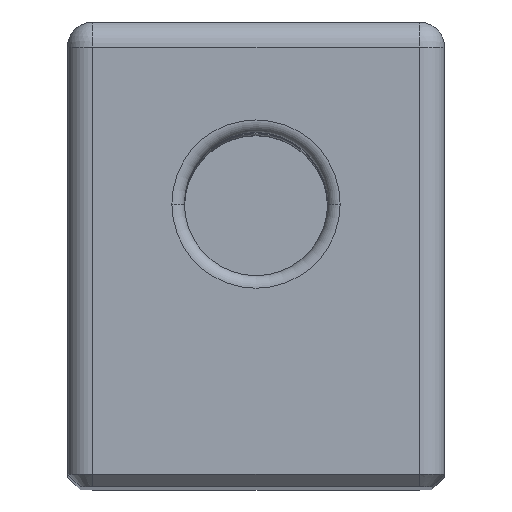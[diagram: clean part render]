
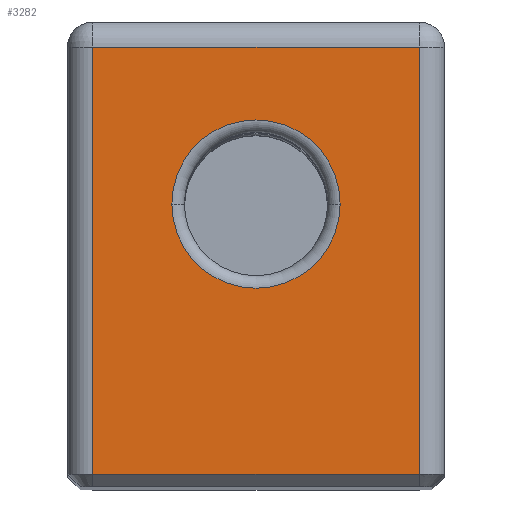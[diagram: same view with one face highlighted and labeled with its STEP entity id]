
A CAD part, top view. The second image highlights one B-rep face of the part: STEP entity #3282.
In plain terms, the highlighted planar face has unit normal (0, 0, 1).
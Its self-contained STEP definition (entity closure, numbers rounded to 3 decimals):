
#147 = ORIENTED_EDGE ( 'NONE', *, *, #2901, .T. ) ;
#544 = CARTESIAN_POINT ( 'NONE',  ( 0., 4., 0. ) ) ;
#557 = VERTEX_POINT ( 'NONE', #10958 ) ;
#1001 = VERTEX_POINT ( 'NONE', #11493 ) ;
#1311 = CARTESIAN_POINT ( 'NONE',  ( -6.7, 4., 0. ) ) ;
#1389 = DIRECTION ( 'NONE',  ( 0., 0., -1. ) ) ;
#1723 = ORIENTED_EDGE ( 'NONE', *, *, #14804, .T. ) ;
#1726 = PLANE ( 'NONE',  #7602 ) ;
#1920 = VECTOR ( 'NONE', #2681, 1000. ) ;
#2517 = LINE ( 'NONE', #5230, #1920 ) ;
#2660 = EDGE_CURVE ( 'NONE', #16057, #8768, #2517, .T. ) ;
#2681 = DIRECTION ( 'NONE',  ( 0., 1., 0. ) ) ;
#2901 = EDGE_CURVE ( 'NONE', #12605, #6580, #10574, .T. ) ;
#3253 = CIRCLE ( 'NONE', #5160, 6.7 ) ;
#3282 = ADVANCED_FACE ( 'NONE', ( #8160, #13305 ), #1726, .F. ) ;
#3333 = CARTESIAN_POINT ( 'NONE',  ( 13., 16.5, 0. ) ) ;
#3585 = DIRECTION ( 'NONE',  ( -1., 0., 0. ) ) ;
#4026 = DIRECTION ( 'NONE',  ( 0., -1., 0. ) ) ;
#5160 = AXIS2_PLACEMENT_3D ( 'NONE', #544, #10943, #3585 ) ;
#5230 = CARTESIAN_POINT ( 'NONE',  ( 13., 18.5, 0. ) ) ;
#5293 = DIRECTION ( 'NONE',  ( -1., 0., 0. ) ) ;
#5454 = ORIENTED_EDGE ( 'NONE', *, *, #2660, .T. ) ;
#5807 = EDGE_LOOP ( 'NONE', ( #14349, #8020, #5454, #1723 ) ) ;
#6054 = CARTESIAN_POINT ( 'NONE',  ( 0., 4., 0. ) ) ;
#6195 = DIRECTION ( 'NONE',  ( 1., 0., 0. ) ) ;
#6580 = VERTEX_POINT ( 'NONE', #1311 ) ;
#6794 = AXIS2_PLACEMENT_3D ( 'NONE', #6054, #13402, #8420 ) ;
#7128 = DIRECTION ( 'NONE',  ( -1., 0., 0. ) ) ;
#7602 = AXIS2_PLACEMENT_3D ( 'NONE', #12971, #1389, #5293 ) ;
#7871 = EDGE_LOOP ( 'NONE', ( #15203, #147 ) ) ;
#8020 = ORIENTED_EDGE ( 'NONE', *, *, #14115, .T. ) ;
#8160 = FACE_BOUND ( 'NONE', #7871, .T. ) ;
#8420 = DIRECTION ( 'NONE',  ( -1., 0., 0. ) ) ;
#8555 = EDGE_CURVE ( 'NONE', #557, #1001, #9012, .T. ) ;
#8710 = CARTESIAN_POINT ( 'NONE',  ( 13., -17.5, 0. ) ) ;
#8768 = VERTEX_POINT ( 'NONE', #3333 ) ;
#9012 = LINE ( 'NONE', #14164, #16191 ) ;
#9666 = EDGE_CURVE ( 'NONE', #6580, #12605, #3253, .T. ) ;
#9861 = CARTESIAN_POINT ( 'NONE',  ( 6.7, 4., 0. ) ) ;
#10574 = CIRCLE ( 'NONE', #6794, 6.7 ) ;
#10943 = DIRECTION ( 'NONE',  ( 0., 0., -1. ) ) ;
#10958 = CARTESIAN_POINT ( 'NONE',  ( -13., 16.5, 0. ) ) ;
#11293 = VECTOR ( 'NONE', #6195, 1000. ) ;
#11493 = CARTESIAN_POINT ( 'NONE',  ( -13., -17.5, 0. ) ) ;
#12116 = CARTESIAN_POINT ( 'NONE',  ( -15., 16.5, 0. ) ) ;
#12605 = VERTEX_POINT ( 'NONE', #9861 ) ;
#12971 = CARTESIAN_POINT ( 'NONE',  ( 0., 0., 0. ) ) ;
#13305 = FACE_OUTER_BOUND ( 'NONE', #5807, .T. ) ;
#13402 = DIRECTION ( 'NONE',  ( 0., 0., -1. ) ) ;
#14041 = LINE ( 'NONE', #15055, #11293 ) ;
#14115 = EDGE_CURVE ( 'NONE', #1001, #16057, #14041, .T. ) ;
#14164 = CARTESIAN_POINT ( 'NONE',  ( -13., -18.5, 0. ) ) ;
#14349 = ORIENTED_EDGE ( 'NONE', *, *, #8555, .T. ) ;
#14520 = VECTOR ( 'NONE', #7128, 1000. ) ;
#14804 = EDGE_CURVE ( 'NONE', #8768, #557, #15916, .T. ) ;
#15055 = CARTESIAN_POINT ( 'NONE',  ( 13., -17.5, 0. ) ) ;
#15203 = ORIENTED_EDGE ( 'NONE', *, *, #9666, .T. ) ;
#15916 = LINE ( 'NONE', #12116, #14520 ) ;
#16057 = VERTEX_POINT ( 'NONE', #8710 ) ;
#16191 = VECTOR ( 'NONE', #4026, 1000. ) ;
